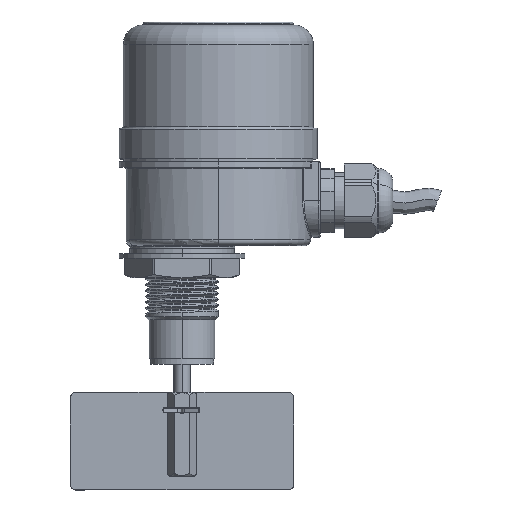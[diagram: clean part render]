
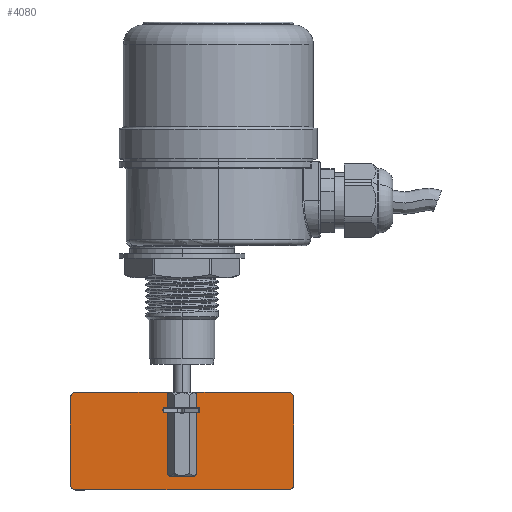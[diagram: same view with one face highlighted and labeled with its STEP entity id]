
A CAD part, top view. The second image highlights one B-rep face of the part: STEP entity #4080.
In plain terms, the highlighted planar face has unit normal (0, 0, 1) as drawn and (0, -1, 0) by its records, which use the part's own axes.
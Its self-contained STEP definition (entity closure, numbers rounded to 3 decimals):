
#73 = ORIENTED_EDGE ( 'NONE', *, *, #3424, .T. ) ;
#103 = CARTESIAN_POINT ( 'NONE',  ( 40., -0.75, 35. ) ) ;
#128 = AXIS2_PLACEMENT_3D ( 'NONE', #5318, #9140, #587 ) ;
#189 = DIRECTION ( 'NONE',  ( 1., 0., 0. ) ) ;
#274 = CARTESIAN_POINT ( 'NONE',  ( 4.64, -0.75, 30. ) ) ;
#318 = CARTESIAN_POINT ( 'NONE',  ( 5.225, -0.75, 30. ) ) ;
#324 = ORIENTED_EDGE ( 'NONE', *, *, #11186, .F. ) ;
#350 = VECTOR ( 'NONE', #4117, 1000. ) ;
#587 = DIRECTION ( 'NONE',  ( 0., 0., -1. ) ) ;
#626 = ORIENTED_EDGE ( 'NONE', *, *, #11719, .F. ) ;
#857 = B_SPLINE_CURVE_WITH_KNOTS ( 'NONE', 3,
 ( #9465, #913, #4709, #8534 ),
 .UNSPECIFIED., .F., .F.,
 ( 4, 4 ),
 ( 0.023, 0.024 ),
 .UNSPECIFIED. ) ;
#913 = CARTESIAN_POINT ( 'NONE',  ( -4.835, -0.75, 29.799 ) ) ;
#927 = ORIENTED_EDGE ( 'NONE', *, *, #5093, .F. ) ;
#1039 = EDGE_CURVE ( 'NONE', #3628, #4040, #1696, .T. ) ;
#1187 = DIRECTION ( 'NONE',  ( 0., 0., -1. ) ) ;
#1201 = EDGE_CURVE ( 'NONE', #10472, #10640, #10523, .T. ) ;
#1204 = EDGE_CURVE ( 'NONE', #1265, #11006, #8646, .T. ) ;
#1218 = CARTESIAN_POINT ( 'NONE',  ( 5.225, -0.75, 29.396 ) ) ;
#1265 = VERTEX_POINT ( 'NONE', #11580 ) ;
#1386 = VECTOR ( 'NONE', #189, 1000. ) ;
#1505 = VECTOR ( 'NONE', #3891, 1000. ) ;
#1571 = CIRCLE ( 'NONE', #8545, 2. ) ;
#1614 = CARTESIAN_POINT ( 'NONE',  ( -40., -0.75, 0. ) ) ;
#1696 = CIRCLE ( 'NONE', #8684, 2. ) ;
#1974 = CARTESIAN_POINT ( 'NONE',  ( -5.225, -0.75, 30. ) ) ;
#1992 = ORIENTED_EDGE ( 'NONE', *, *, #11639, .T. ) ;
#2067 = LINE ( 'NONE', #5870, #8514 ) ;
#2283 = DIRECTION ( 'NONE',  ( 0., 0., -1. ) ) ;
#2560 = VECTOR ( 'NONE', #5405, 1000. ) ;
#2748 = CARTESIAN_POINT ( 'NONE',  ( 5.225, -0.75, 0.604 ) ) ;
#3228 = PLANE ( 'NONE',  #10127 ) ;
#3412 = DIRECTION ( 'NONE',  ( 0., -1., 0. ) ) ;
#3423 = ORIENTED_EDGE ( 'NONE', *, *, #4004, .T. ) ;
#3424 = EDGE_CURVE ( 'NONE', #11351, #8821, #2067, .T. ) ;
#3429 = CARTESIAN_POINT ( 'NONE',  ( -5.03, -0.75, 0.402 ) ) ;
#3468 = ORIENTED_EDGE ( 'NONE', *, *, #5225, .F. ) ;
#3552 = CARTESIAN_POINT ( 'NONE',  ( -40., -0.75, 35. ) ) ;
#3558 = EDGE_CURVE ( 'NONE', #5693, #5536, #8866, .T. ) ;
#3606 = DIRECTION ( 'NONE',  ( 0., -1., 0. ) ) ;
#3609 = CARTESIAN_POINT ( 'NONE',  ( 38., -0.75, 35. ) ) ;
#3628 = VERTEX_POINT ( 'NONE', #6182 ) ;
#3635 = CARTESIAN_POINT ( 'NONE',  ( 4.64, -0.75, 0. ) ) ;
#3665 = CARTESIAN_POINT ( 'NONE',  ( 4.64, -0.75, 0. ) ) ;
#3733 = CIRCLE ( 'NONE', #5331, 2. ) ;
#3891 = DIRECTION ( 'NONE',  ( 0., 0., -1. ) ) ;
#3921 = LINE ( 'NONE', #7738, #12085 ) ;
#4004 = EDGE_CURVE ( 'NONE', #1265, #6647, #3733, .T. ) ;
#4040 = VERTEX_POINT ( 'NONE', #4167 ) ;
#4060 = ORIENTED_EDGE ( 'NONE', *, *, #1204, .F. ) ;
#4080 = ADVANCED_FACE ( 'NONE', ( #11777 ), #3228, .T. ) ;
#4117 = DIRECTION ( 'NONE',  ( 0., 0., 1. ) ) ;
#4167 = CARTESIAN_POINT ( 'NONE',  ( -38., -0.75, 0. ) ) ;
#4364 = CARTESIAN_POINT ( 'NONE',  ( 40., -0.75, 2. ) ) ;
#4709 = CARTESIAN_POINT ( 'NONE',  ( -5.03, -0.75, 29.598 ) ) ;
#4757 = CARTESIAN_POINT ( 'NONE',  ( 5.225, -0.75, 0.604 ) ) ;
#4900 = LINE ( 'NONE', #8733, #1386 ) ;
#5004 = CARTESIAN_POINT ( 'NONE',  ( 5.03, -0.75, 29.598 ) ) ;
#5093 = EDGE_CURVE ( 'NONE', #10640, #11229, #5483, .T. ) ;
#5225 = EDGE_CURVE ( 'NONE', #3628, #10419, #12104, .T. ) ;
#5279 = VECTOR ( 'NONE', #5773, 1000. ) ;
#5318 = CARTESIAN_POINT ( 'NONE',  ( 38., -0.75, 2. ) ) ;
#5331 = AXIS2_PLACEMENT_3D ( 'NONE', #5914, #9734, #1187 ) ;
#5405 = DIRECTION ( 'NONE',  ( -1., 0., 0. ) ) ;
#5483 = B_SPLINE_CURVE_WITH_KNOTS ( 'NONE', 3,
 ( #11982, #3429, #7243, #11047 ),
 .UNSPECIFIED., .F., .F.,
 ( 4, 4 ),
 ( 0.01, 0.011 ),
 .UNSPECIFIED. ) ;
#5489 = CIRCLE ( 'NONE', #128, 2. ) ;
#5536 = VERTEX_POINT ( 'NONE', #7798 ) ;
#5693 = VERTEX_POINT ( 'NONE', #4757 ) ;
#5773 = DIRECTION ( 'NONE',  ( 0., 0., -1. ) ) ;
#5802 = CARTESIAN_POINT ( 'NONE',  ( -40., -0.75, 33. ) ) ;
#5870 = CARTESIAN_POINT ( 'NONE',  ( 0., -0.75, 30. ) ) ;
#5914 = CARTESIAN_POINT ( 'NONE',  ( 38., -0.75, 33. ) ) ;
#6182 = CARTESIAN_POINT ( 'NONE',  ( -40., -0.75, 2. ) ) ;
#6514 = VECTOR ( 'NONE', #7366, 1000. ) ;
#6574 = CARTESIAN_POINT ( 'NONE',  ( 4.64, -0.75, 30. ) ) ;
#6647 = VERTEX_POINT ( 'NONE', #3609 ) ;
#7044 = CARTESIAN_POINT ( 'NONE',  ( 0., -0.75, 0. ) ) ;
#7175 = EDGE_CURVE ( 'NONE', #11351, #10472, #857, .T. ) ;
#7227 = DIRECTION ( 'NONE',  ( 0., 0., -1. ) ) ;
#7243 = CARTESIAN_POINT ( 'NONE',  ( -4.835, -0.75, 0.201 ) ) ;
#7366 = DIRECTION ( 'NONE',  ( 0., 0., 1. ) ) ;
#7418 = DIRECTION ( 'NONE',  ( 0., 0., -1. ) ) ;
#7475 = CARTESIAN_POINT ( 'NONE',  ( 4.835, -0.75, 0.201 ) ) ;
#7694 = ORIENTED_EDGE ( 'NONE', *, *, #8440, .T. ) ;
#7738 = CARTESIAN_POINT ( 'NONE',  ( -40., -0.75, 0. ) ) ;
#7798 = CARTESIAN_POINT ( 'NONE',  ( 5.225, -0.75, 29.396 ) ) ;
#7910 = EDGE_CURVE ( 'NONE', #8270, #6647, #4900, .T. ) ;
#8270 = VERTEX_POINT ( 'NONE', #9778 ) ;
#8440 = EDGE_CURVE ( 'NONE', #11803, #11006, #5489, .T. ) ;
#8514 = VECTOR ( 'NONE', #9686, 1000. ) ;
#8534 = CARTESIAN_POINT ( 'NONE',  ( -5.225, -0.75, 29.396 ) ) ;
#8545 = AXIS2_PLACEMENT_3D ( 'NONE', #11966, #3412, #7227 ) ;
#8646 = LINE ( 'NONE', #103, #1505 ) ;
#8684 = AXIS2_PLACEMENT_3D ( 'NONE', #12161, #3606, #7418 ) ;
#8733 = CARTESIAN_POINT ( 'NONE',  ( -40., -0.75, 35. ) ) ;
#8821 = VERTEX_POINT ( 'NONE', #6574 ) ;
#8825 = CARTESIAN_POINT ( 'NONE',  ( 4.835, -0.75, 29.799 ) ) ;
#8866 = LINE ( 'NONE', #318, #350 ) ;
#8903 = B_SPLINE_CURVE_WITH_KNOTS ( 'NONE', 3,
 ( #1218, #5004, #8825, #274 ),
 .UNSPECIFIED., .F., .F.,
 ( 4, 4 ),
 ( 0.01, 0.011 ),
 .UNSPECIFIED. ) ;
#9005 = ORIENTED_EDGE ( 'NONE', *, *, #1201, .F. ) ;
#9140 = DIRECTION ( 'NONE',  ( 0., -1., 0. ) ) ;
#9255 = ORIENTED_EDGE ( 'NONE', *, *, #12238, .F. ) ;
#9401 = CARTESIAN_POINT ( 'NONE',  ( 38., -0.75, 0. ) ) ;
#9465 = CARTESIAN_POINT ( 'NONE',  ( -4.64, -0.75, 30. ) ) ;
#9612 = EDGE_CURVE ( 'NONE', #11229, #4040, #3921, .T. ) ;
#9686 = DIRECTION ( 'NONE',  ( 1., 0., 0. ) ) ;
#9734 = DIRECTION ( 'NONE',  ( 0., -1., 0. ) ) ;
#9778 = CARTESIAN_POINT ( 'NONE',  ( -38., -0.75, 35. ) ) ;
#9793 = CARTESIAN_POINT ( 'NONE',  ( -5.225, -0.75, 0.604 ) ) ;
#10011 = ORIENTED_EDGE ( 'NONE', *, *, #7175, .F. ) ;
#10127 = AXIS2_PLACEMENT_3D ( 'NONE', #7044, #10839, #2283 ) ;
#10165 = LINE ( 'NONE', #1614, #2560 ) ;
#10305 = ORIENTED_EDGE ( 'NONE', *, *, #3558, .F. ) ;
#10419 = VERTEX_POINT ( 'NONE', #5802 ) ;
#10472 = VERTEX_POINT ( 'NONE', #10617 ) ;
#10523 = LINE ( 'NONE', #1974, #5279 ) ;
#10611 = CARTESIAN_POINT ( 'NONE',  ( -4.64, -0.75, 30. ) ) ;
#10617 = CARTESIAN_POINT ( 'NONE',  ( -5.225, -0.75, 29.396 ) ) ;
#10640 = VERTEX_POINT ( 'NONE', #9793 ) ;
#10839 = DIRECTION ( 'NONE',  ( 0., -1., 0. ) ) ;
#10999 = B_SPLINE_CURVE_WITH_KNOTS ( 'NONE', 3,
 ( #3665, #7475, #11287, #2748 ),
 .UNSPECIFIED., .F., .F.,
 ( 4, 4 ),
 ( 0.023, 0.024 ),
 .UNSPECIFIED. ) ;
#11006 = VERTEX_POINT ( 'NONE', #4364 ) ;
#11047 = CARTESIAN_POINT ( 'NONE',  ( -4.64, -0.75, 0. ) ) ;
#11186 = EDGE_CURVE ( 'NONE', #11986, #5693, #10999, .T. ) ;
#11229 = VERTEX_POINT ( 'NONE', #11352 ) ;
#11287 = CARTESIAN_POINT ( 'NONE',  ( 5.03, -0.75, 0.402 ) ) ;
#11351 = VERTEX_POINT ( 'NONE', #10611 ) ;
#11352 = CARTESIAN_POINT ( 'NONE',  ( -4.64, -0.75, 0. ) ) ;
#11436 = ORIENTED_EDGE ( 'NONE', *, *, #7910, .F. ) ;
#11548 = DIRECTION ( 'NONE',  ( -1., 0., 0. ) ) ;
#11580 = CARTESIAN_POINT ( 'NONE',  ( 40., -0.75, 33. ) ) ;
#11639 = EDGE_CURVE ( 'NONE', #8270, #10419, #1571, .T. ) ;
#11700 = ORIENTED_EDGE ( 'NONE', *, *, #1039, .T. ) ;
#11719 = EDGE_CURVE ( 'NONE', #11803, #11986, #10165, .T. ) ;
#11777 = FACE_OUTER_BOUND ( 'NONE', #11999, .T. ) ;
#11803 = VERTEX_POINT ( 'NONE', #9401 ) ;
#11966 = CARTESIAN_POINT ( 'NONE',  ( -38., -0.75, 33. ) ) ;
#11982 = CARTESIAN_POINT ( 'NONE',  ( -5.225, -0.75, 0.604 ) ) ;
#11986 = VERTEX_POINT ( 'NONE', #3635 ) ;
#11999 = EDGE_LOOP ( 'NONE', ( #4060, #3423, #11436, #1992, #3468, #11700, #12183, #927, #9005, #10011, #73, #9255, #10305, #324, #626, #7694 ) ) ;
#12085 = VECTOR ( 'NONE', #11548, 1000. ) ;
#12104 = LINE ( 'NONE', #3552, #6514 ) ;
#12161 = CARTESIAN_POINT ( 'NONE',  ( -38., -0.75, 2. ) ) ;
#12183 = ORIENTED_EDGE ( 'NONE', *, *, #9612, .F. ) ;
#12238 = EDGE_CURVE ( 'NONE', #5536, #8821, #8903, .T. ) ;
